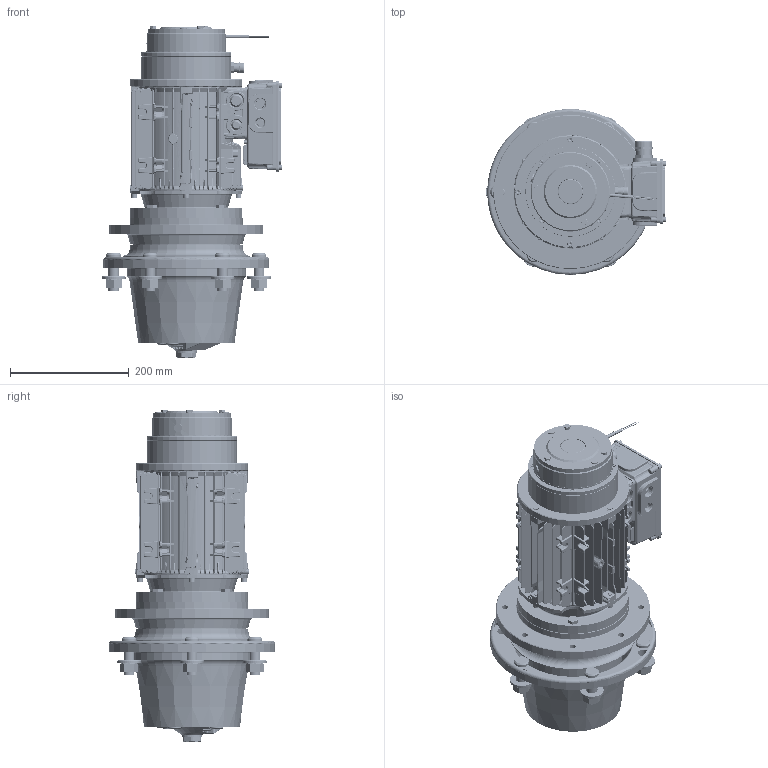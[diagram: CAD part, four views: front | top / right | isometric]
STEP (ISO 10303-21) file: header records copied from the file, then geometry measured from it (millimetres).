
FILE_DESCRIPTION(/* description */ (''),/* implementation_level */ '2;1');
FILE_NAME(/* name */ 'Z:\SITO WEB 2024\Dual Drive\MRH200\MRH200-PMAC.stp',/* time_stamp */ '2024-03-22T08:13:36+01:00',/* author */ ('cad3'),/* organization */ (''),/* preprocessor_version */ 'ST-DEVELOPER v18.1',/* originating_system */ 'Autodesk Inventor 2022',/* authorisation */ '');
FILE_SCHEMA (('AUTOMOTIVE_DESIGN { 1 0 10303 214 3 1 1 }'));
Products named in the file (1): MRH200-PMAC
Bounding box: 304.1 x 280 x 560 mm (x, y, z)
Volume: 9190388.5 mm3; surface area: 1673736.9 mm2
Topology: 32 solids, 148 shells, 14053 faces, 35861 edges, 22757 vertices
Faces by surface type: plane 7698, cylinder 3159, bspline 1645, cone 1050, torus 380, sphere 121
Full cylindrical faces by diameter (mm): 0.5 x2, 1.5 x2, 2 x6, 2.5 x2, 3 x12, 3.2 x4, 3.242 x6, 3.4 x1, 4 x13, 4.134 x4, 4.2 x4, 4.3 x3, 4.5 x8, 4.917 x14, 5 x28, 5.2 x2, 5.3 x8, 5.4 x1, 5.5 x1, 6 x36, 6.2 x6, 6.3 x5, 6.4 x3, 6.5 x15, 6.8 x4, 7 x14, 7.5 x3, 7.8 x9, 8 x17, 8.4 x4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
Entity records: 594143 total; most frequent: CARTESIAN_POINT 247796, ORIENTED_EDGE 71358, DIRECTION 66576, EDGE_CURVE 35679, AXIS2_PLACEMENT_3D 23842, VERTEX_POINT 22832, LINE 18892, VECTOR 18892
